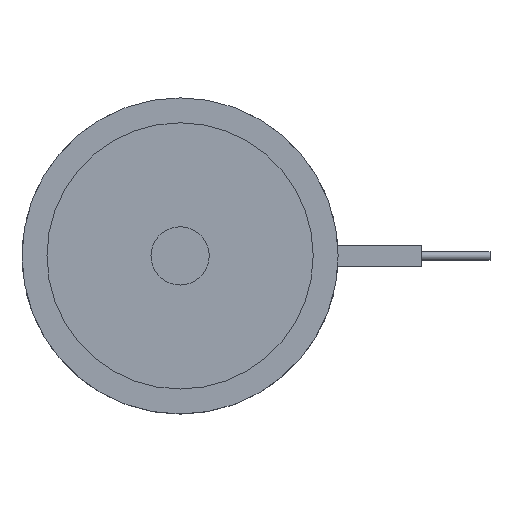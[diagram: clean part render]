
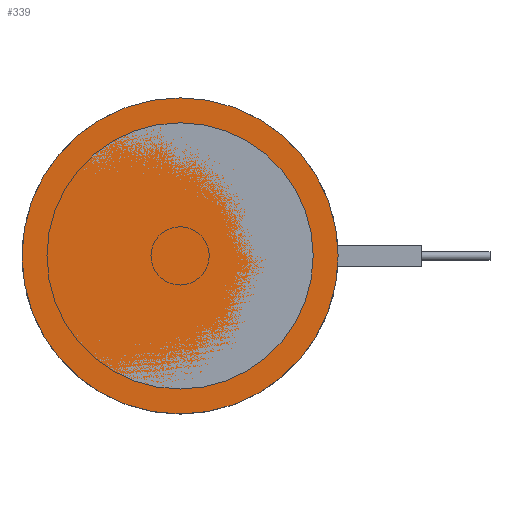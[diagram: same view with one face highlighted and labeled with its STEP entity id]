
A CAD part, top view. The second image highlights one B-rep face of the part: STEP entity #339.
In plain terms, the highlighted planar face has unit normal (0, 0, 1).
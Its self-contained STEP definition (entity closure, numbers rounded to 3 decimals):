
#339=ADVANCED_FACE('',(#446),#406,.F.);
#406=PLANE('',#1188);
#446=FACE_OUTER_BOUND('',#535,.T.);
#535=EDGE_LOOP('',(#681));
#681=ORIENTED_EDGE('',*,*,#981,.F.);
#882=VERTEX_POINT('',#1750);
#981=EDGE_CURVE('',#882,#882,#1087,.T.);
#1087=CIRCLE('',#1187,19.);
#1187=AXIS2_PLACEMENT_3D('',#1749,#1403,#1404);
#1188=AXIS2_PLACEMENT_3D('',#1751,#1405,#1406);
#1403=DIRECTION('',(0.,0.,-1.));
#1404=DIRECTION('',(-1.,0.,0.));
#1405=DIRECTION('',(0.,0.,-1.));
#1406=DIRECTION('',(-1.,0.,0.));
#1749=CARTESIAN_POINT('',(0.,0.,0.));
#1750=CARTESIAN_POINT('',(-19.,0.,0.));
#1751=CARTESIAN_POINT('',(0.,0.,0.));
